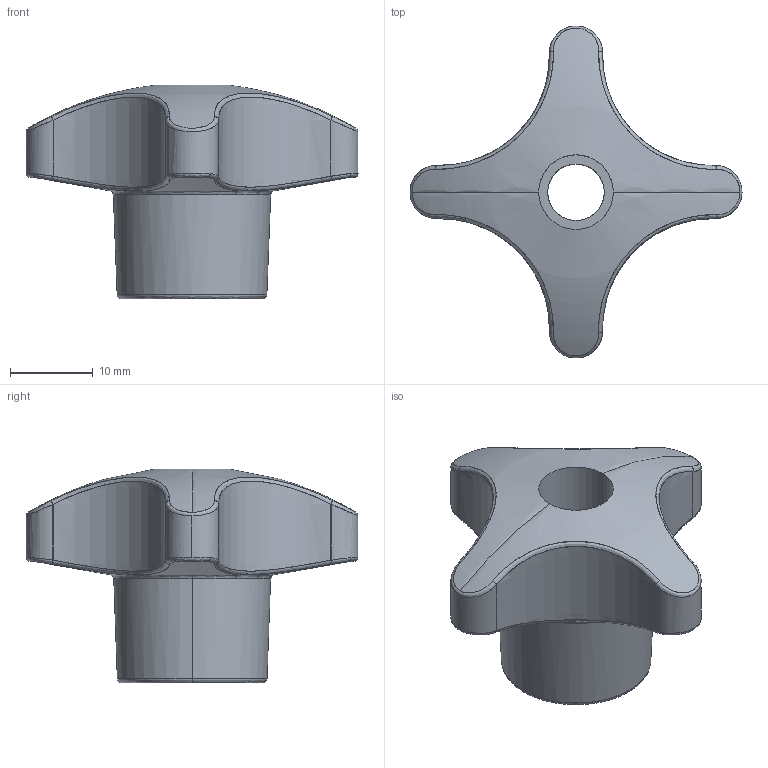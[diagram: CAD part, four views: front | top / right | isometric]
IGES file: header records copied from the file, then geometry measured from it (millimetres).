
Start section: SolidWorks IGES file using analytic representation for surfaces
Global section: file name: C:\Users\Marc\Documents\2 ENGINYERIA\Catalogo 3D\IGS STEP DXF\1121 40 401.IGS; native system: SolidWorks 2010; preprocessor: SolidWorks 2010; author: Marc; date: 101126.164555; units: millimetre
Bounding box: 40 x 40 x 25.74 mm (x, y, z)
Surface area: 4771.2 mm2 (no closed solid volume)
Topology: 0 solids, 0 shells, 81 faces, 997 edges, 997 vertices
Faces by surface type: bspline 43, revolution 38
